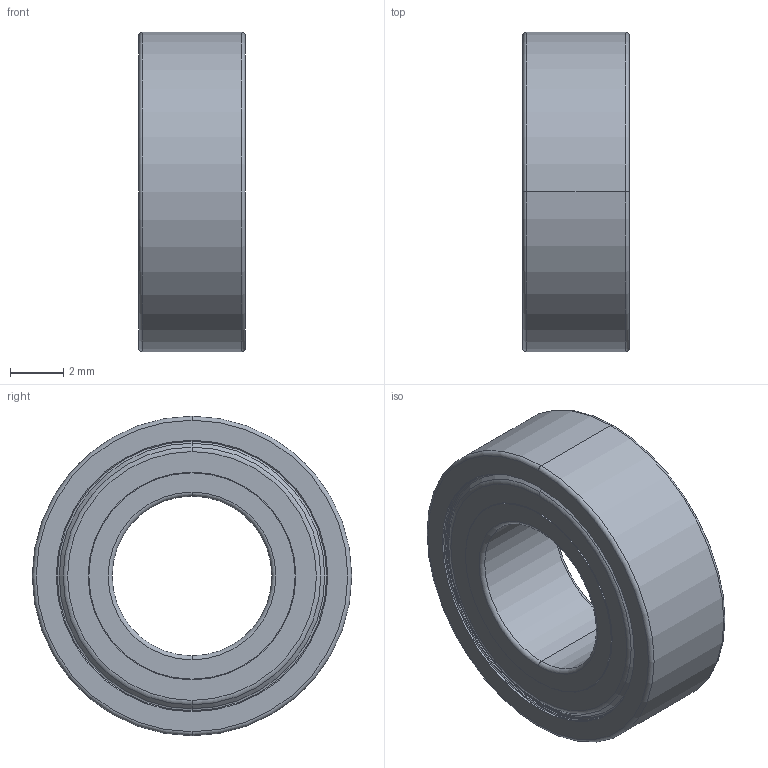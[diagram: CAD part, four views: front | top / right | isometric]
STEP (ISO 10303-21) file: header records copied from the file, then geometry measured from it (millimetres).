
FILE_DESCRIPTION((''),'2;1');
FILE_NAME('MR126ZZ_ASM_SW0001','2025-12-19T16:56:20',('qinghui.yi'),(''),'CREO PARAMETRIC BY PTC INC, 2019164','CREO PARAMETRIC BY PTC INC, 2019164','');
FILE_SCHEMA(('CONFIG_CONTROL_DESIGN','SHAPE_APPEARANCE_LAYERS_GROUPS'));
Length unit declared in the file: millimetre
Products named in the file (1): MR126ZZ_ASM_SW0001
Bounding box: 4 x 12 x 12 mm (x, y, z)
Volume: 210.7 mm3; surface area: 713.5 mm2
Topology: 2 solids, 2 shells, 88 faces, 180 edges, 106 vertices
Faces by surface type: torus 34, cylinder 24, cone 16, plane 14
Entity records: 2595 total; most frequent: DIRECTION 496, CARTESIAN_POINT 374, ORIENTED_EDGE 360, AXIS2_PLACEMENT_3D 228, COLOUR_RGB 196, EDGE_CURVE 180, CIRCLE 140, VERTEX_POINT 106
